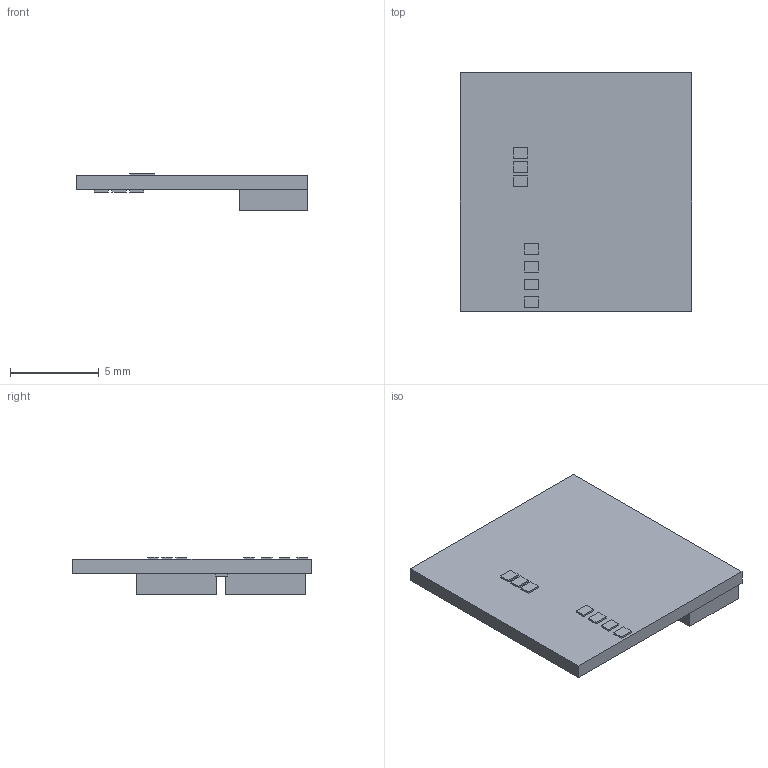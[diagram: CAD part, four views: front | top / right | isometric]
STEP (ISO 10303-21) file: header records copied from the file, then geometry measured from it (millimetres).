
FILE_DESCRIPTION(('Open CASCADE Model'),'2;1');
FILE_NAME('Open CASCADE Shape Model','2026-11-23T18:10:16',('Author'),( 'Open CASCADE'),'Open CASCADE STEP processor 8.0','build123d', 'Unknown');
FILE_SCHEMA(('AUTOMOTIVE_DESIGN { 1 0 10303 214 1 1 1 1 }'));
Length unit declared in the file: millimetre
Products named in the file (1): SOLID
Bounding box: 13 x 13.4 x 2.1 mm (x, y, z)
Volume: 181.5 mm3; surface area: 434 mm2
Topology: 1 solids, 1 shells, 64 faces, 156 edges, 104 vertices
Faces by surface type: plane 64
Entity records: 3786 total; most frequent: CARTESIAN_POINT 729, DIRECTION 506, LINE 376, VECTOR 376, ORIENTED_EDGE 312, PCURVE 312, DEFINITIONAL_REPRESENTATION 312, EDGE_CURVE 156
